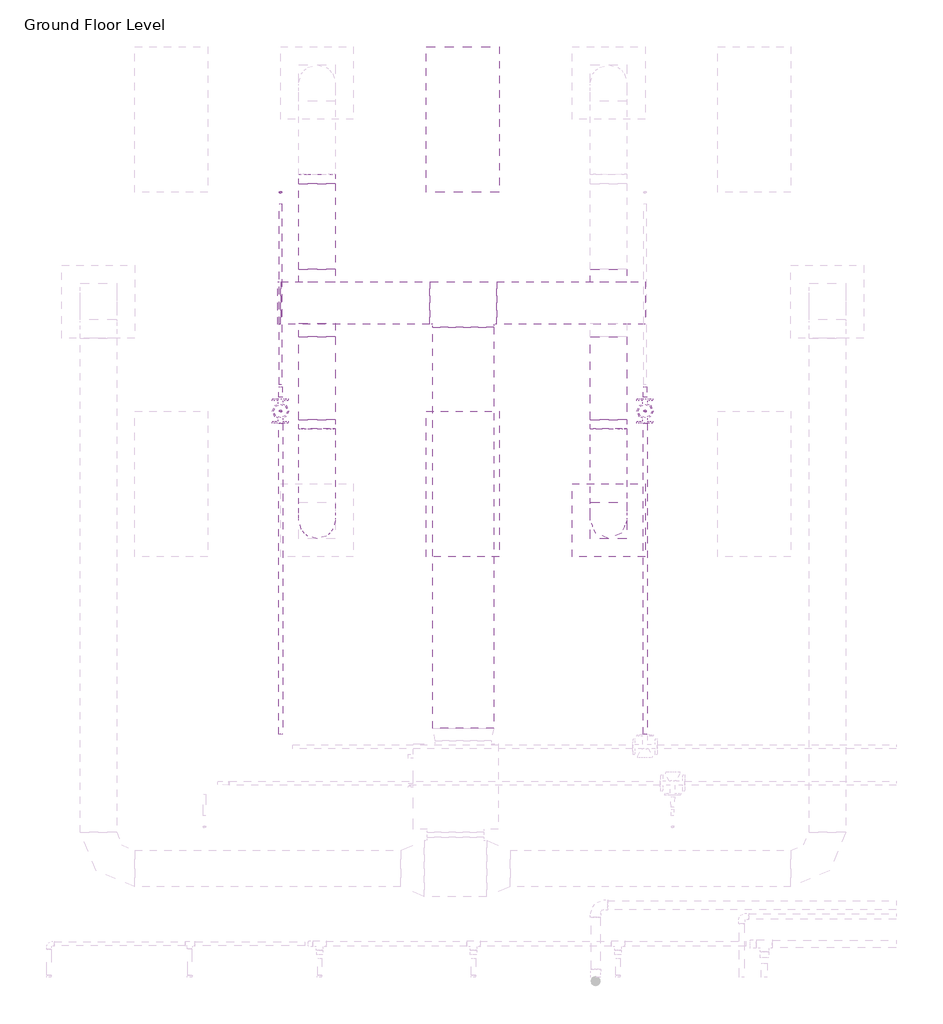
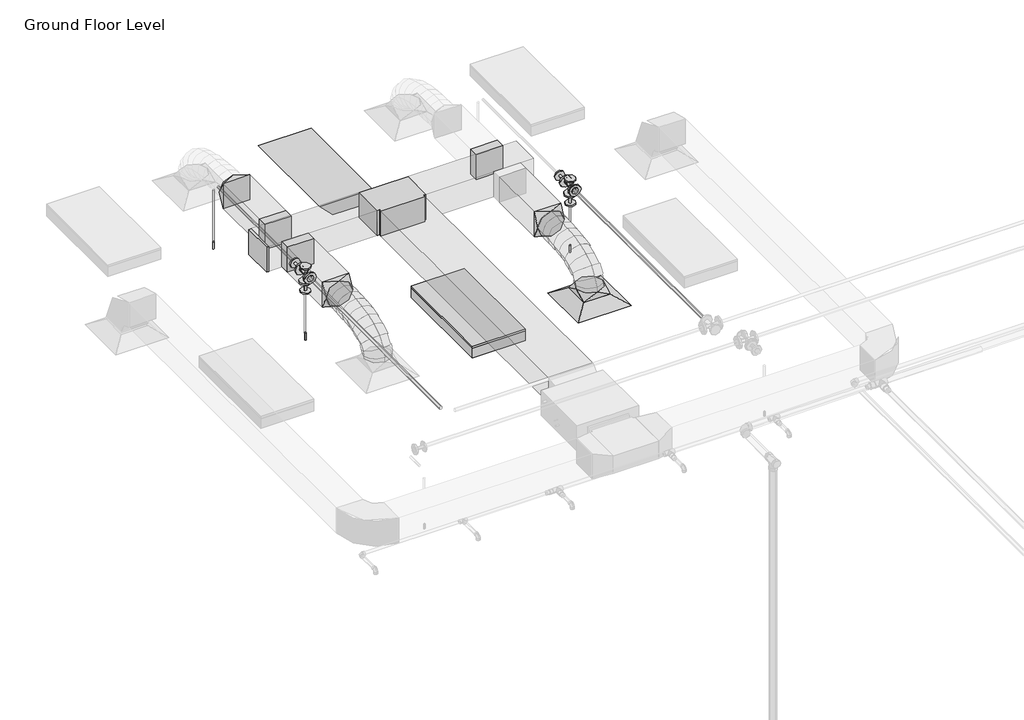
# One storey, part 52 of 66: 9 duct fittings, 8 duct segments, 6 pipe fittings, 6 pipe segments, 3 fire suppression terminals, 2 light fixtures, 1 air terminal.
"""IFC4 building model written with IfcOpenShell, lengths in millimetres."""

from ifc_helpers import new_model, si_unit, point, frame, frame_2d, origin, place, context, project, spatial, polyline, circle_curve, ellipse_curve, trimmed, segment, composite_curve, outline, extrude, transform, mapped, element, save
from ifc_brep_helpers import plane_surface, cylinder_surface, advanced_brep
from components import m_return_diffuser_600_x_600_face_300_x_300_connection_ff221211, m_rectangular_endcap_standard_eed78c44, m_rectangular_takeoff_standard_cb0ccb98, m_rectangular_takeoff_standard_2be5eba1, m_rectangular_tee_standard_9fc1ddf1, m_rectangular_to_round_transition_angle_45_degree_641efff0, m_sprinkler_dry_pendent_hosted_15_mm_dry_pendent_9bda8e11, m_emergency_recessed_lighting_fixture_600x1200_277_5b10b25d, m_troffer_light_parabolic_rectangular1_0600x1200mm_4_lamp_86473d4a, m_reducer_flanged_cs_class_150_standard_d42b2106, m_tee_round_base_flanged_cs_class_150_standard_7e5987a1

model = new_model("IFC4")

# Units and contexts
model_context = context("Model", 3, world=origin())
ifc_project = project(units=[si_unit("LENGTHUNIT", "METRE", prefix="MILLI")], contexts=[model_context])

# Site, building, storey
site = spatial("IfcSite", under=ifc_project)
building = spatial("IfcBuilding", under=site)
storey = spatial("IfcBuildingStorey", under=building, Name="Ground Floor Level", Elevation=900.0)

# Air terminal
placement = place(None, origin())
m_return_diffuser_600_x_600_face_300_x_300_connection_shape = m_return_diffuser_600_x_600_face_300_x_300_connection_ff221211(model_context)
element("IfcAirTerminal", 1, ObjectType="M_Supply Diffuser : 600 x 600 Face 300 x 300 Connection", at=placement, inside=storey, context=model_context, shape_type="MappedRepresentation", body=[
    mapped(m_return_diffuser_600_x_600_face_300_x_300_connection_shape, transform((-16737.2327605, 16935.2153534, 3650.0), x_axis=(1.0, 0.0, 0.0), y_axis=(0.0, 1.0, 0.0), z_axis=(0.0, 0.0, 1.0))),
])

# Duct fittings
m_rectangular_endcap_standard_shape = m_rectangular_endcap_standard_eed78c44(model_context)
element("IfcDuctFitting", 2, ObjectType="M_Rectangular Endcap : Standard", at=placement, inside=storey, context=model_context, shape_type="MappedRepresentation", body=[
    mapped(m_rectangular_endcap_standard_shape, transform((-19437.2326293, 18724.6783949, 4099.9991374), x_axis=(-0.9999999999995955, 0.0, -8.994654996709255e-07), y_axis=(0.0, -1.0000000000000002, 0.0), z_axis=(-8.994654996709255e-07, 0.0, 0.9999999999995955))),
])
m_rectangular_takeoff_standard_shape = m_rectangular_takeoff_standard_cb0ccb98(model_context)
element("IfcDuctFitting", 3, ObjectType="M_Rectangular Takeoff : Standard", at=placement, inside=storey, context=model_context, shape_type="MappedRepresentation", body=[
    mapped(m_rectangular_takeoff_standard_shape, transform((-16737.2327605, 18899.6783949, 4099.9993619), x_axis=(0.0, 1.0, 0.0), y_axis=(1.0, 0.0, 0.0), z_axis=(0.0, 0.0, -1.0))),
])
element("IfcDuctFitting", 4, ObjectType="M_Rectangular Takeoff : Standard", at=placement, inside=storey, context=model_context, shape_type="MappedRepresentation", body=[
    mapped(m_rectangular_takeoff_standard_shape, transform((-19137.2327605, 18549.6783949, 4099.9994072), x_axis=(0.0, -1.0, 0.0), y_axis=(-1.0, 0.0, 0.0), z_axis=(0.0, 0.0, -1.0))),
])
m_rectangular_takeoff_standard_2_shape = m_rectangular_takeoff_standard_2be5eba1(model_context)
element("IfcDuctFitting", 5, ObjectType="M_Rectangular Takeoff : Standard", at=placement, inside=storey, context=model_context, shape_type="MappedRepresentation", body=[
    mapped(m_rectangular_takeoff_standard_2_shape, transform((-19137.2327605, 18899.6783949, 4099.9994072), x_axis=(0.0, 1.0, 0.0), y_axis=(1.0, 0.0, 0.0), z_axis=(0.0, 0.0, -1.0))),
])
m_rectangular_tee_standard_shape = m_rectangular_tee_standard_9fc1ddf1(model_context)
element("IfcDuctFitting", 6, ObjectType="M_Rectangular Tee : Standard", at=placement, inside=storey, context=model_context, shape_type="MappedRepresentation", body=[
    mapped(m_rectangular_tee_standard_shape, transform((-17933.7327605, 18724.6783949, 4100.0001212), x_axis=(0.999999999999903, 0.0, -4.406637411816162e-07), y_axis=(-1.704451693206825e-12, 0.9999999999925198, -3.867919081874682e-06), z_axis=(4.406637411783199e-07, 3.867919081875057e-06, 0.9999999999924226))),
])
m_rectangular_to_round_transition_angle_45_degree_shape = m_rectangular_to_round_transition_angle_45_degree_641efff0(model_context)
element("IfcDuctFitting", 7, ObjectType="M_Rectangular to Round Transition - Angle : 45 Degree", at=placement, inside=storey, context=model_context, shape_type="MappedRepresentation", body=[
    mapped(m_rectangular_to_round_transition_angle_45_degree_shape, transform((-19137.2327605, 19707.8788293, 4099.9994072), x_axis=(0.0, 1.0, 0.0), y_axis=(-1.0, 0.0, 0.0), z_axis=(0.0, 0.0, 1.0))),
])
element("IfcDuctFitting", 8, ObjectType="M_Rectangular to Round Transition - Angle : 45 Degree", at=placement, inside=storey, context=model_context, shape_type="MappedRepresentation", body=[
    mapped(m_rectangular_to_round_transition_angle_45_degree_shape, transform((-16737.2327605, 16935.2153534, 3751.6), x_axis=(0.0, 0.0, 1.0), y_axis=(-1.0, 0.0, 0.0), z_axis=(0.0, -1.0, 0.0))),
])
element("IfcDuctFitting", 9, ObjectType="M_Rectangular to Round Transition - Angle : 45 Degree", at=placement, inside=storey, context=model_context, shape_type="MappedRepresentation", body=[
    mapped(m_rectangular_to_round_transition_angle_45_degree_shape, transform((-16737.2327605, 17762.5519228, 4099.9993619), x_axis=(0.0, -1.0, 0.0), y_axis=(1.0, 0.0, 0.0), z_axis=(0.0, 0.0, 1.0))),
])
element("IfcDuctFitting", 10, ObjectType="M_Rectangular to Round Transition - Angle : 45 Degree", at=placement, inside=storey, context=model_context, shape_type="MappedRepresentation", body=[
    mapped(m_rectangular_to_round_transition_angle_45_degree_shape, transform((-19137.2327605, 17762.5518775, 4099.9994072), x_axis=(0.0, -1.0, 0.0), y_axis=(1.0, 0.0, 0.0), z_axis=(0.0, 0.0, 1.0))),
])

# Duct segments
element("IfcDuctSegment", 11, ObjectType="Flex - Round", at=placement, inside=storey, context=model_context, shape_type="AdvancedBrep", body=[
    advanced_brep(
    [(-16587.2327605, 16935.2153534, 3826.6), (-16737.2327605, 16785.2153534, 3826.6), (-16887.2327605, 16935.2153534, 3826.6), (-16737.2327605, 17085.2153534, 3826.6), (-16587.2327605, 16935.2153534, 3857.9377382), (-16737.2327605, 16785.2153534, 3883.5809933), (-16887.2327605, 16935.2153534, 3857.9377382), (-16737.2327605, 17085.2153534, 3832.2944832), (-16587.2327605, 16952.2313036, 3906.2505845), (-16737.2327605, 16818.4933649, 3978.0661927), (-16887.2327605, 16952.2313036, 3906.2505845), (-16737.2327605, 17085.9692424, 3834.4349763), (-16587.2327605, 16999.4152322, 3968.7112839), (-16737.2327605, 16895.2094421, 4079.6206836), (-16887.2327605, 16999.4152322, 3968.7112839), (-16737.2327605, 17103.6210222, 3857.8018842), (-16587.2327605, 17070.9712556, 4016.069955), (-16737.2327605, 17002.0373721, 4150.3237294), (-16887.2327605, 17070.9712556, 4016.069955), (-16737.2327605, 17139.9051391, 3881.8161806), (-16587.2327605, 17161.1034906, 4050.4144545), (-16737.2327605, 17117.5429156, 4194.3366186), (-16887.2327605, 17161.1034906, 4050.4144545), (-16737.2327605, 17204.6640657, 3906.4922903), (-16587.2327605, 17264.0160539, 4073.832639), (-16737.2327605, 17237.4553083, 4221.6231855), (-16887.2327605, 17264.0160539, 4073.832639), (-16737.2327605, 17290.5767996, 3926.0420925), (-16587.2327605, 17373.9130621, 4088.4123653), (-16737.2327605, 17358.7623148, 4237.7166441), (-16887.2327605, 17373.9130621, 4088.4123653), (-16737.2327605, 17389.0638095, 3939.1080865), (-16587.2327605, 17484.9986319, 4096.2414901), (-16737.2327605, 17477.4934243, 4246.0846137), (-16887.2327605, 17484.9986319, 4096.2414901), (-16737.2327605, 17492.5038395, 3946.3983665), (-16587.2327605, 17591.4768799, 4099.4078701), (-16737.2327605, 17588.7854577, 4249.3941429), (-16887.2327605, 17591.4768799, 4099.4078701), (-16737.2327605, 17594.1683021, 3949.4215972), (-16587.2327605, 17687.5519228, 4099.9993619), (-16737.2327605, 17688.4753894, 3950.0022045), (-16887.2327605, 17687.5519228, 4099.9993619), (-16737.2327605, 17686.6284562, 4249.9965192)],
    [
        (0, 1, circle_curve(frame((-16737.2327605, 16935.2153534, 3826.6), z_axis=(0.0, 0.0, -1.0), x_axis=(1.0, 0.0, 0.0)), 150.0)),
        (1, 2, circle_curve(frame((-16737.2327605, 16935.2153534, 3826.6), z_axis=(0.0, 0.0, -1.0), x_axis=(1.0, 0.0, 0.0)), 150.0)),
        (2, 3, circle_curve(frame((-16737.2327605, 16935.2153534, 3826.6), z_axis=(0.0, 0.0, -1.0), x_axis=(1.0, 0.0, 0.0)), 150.0)),
        (3, 0, circle_curve(frame((-16737.2327605, 16935.2153534, 3826.6), z_axis=(0.0, 0.0, -1.0), x_axis=(1.0, 0.0, 0.0)), 150.0)),
        (0, 4),
        (4, 5, ellipse_curve(frame((-16737.2327605, 16935.2153534, 3857.9377382), z_axis=(0.0, -0.16851035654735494, -0.9856998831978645), x_axis=(0.0, 0.9856998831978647, -0.16851035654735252)), 152.1761365, 150.0)),
        (5, 1),
        (5, 6, ellipse_curve(frame((-16737.2327605, 16935.2153534, 3857.9377382), z_axis=(0.0, -0.16851035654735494, -0.9856998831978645), x_axis=(0.0, 0.9856998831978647, -0.16851035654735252)), 152.1761365, 150.0)),
        (6, 2),
        (6, 7, ellipse_curve(frame((-16737.2327605, 16935.2153534, 3857.9377382), z_axis=(0.0, -0.16851035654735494, -0.9856998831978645), x_axis=(0.0, 0.9856998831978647, -0.16851035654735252)), 152.1761365, 150.0)),
        (7, 3),
        (7, 4, ellipse_curve(frame((-16737.2327605, 16935.2153534, 3857.9377382), z_axis=(0.0, -0.16851035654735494, -0.9856998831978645), x_axis=(0.0, 0.9856998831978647, -0.16851035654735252)), 152.1761365, 150.0)),
        (4, 8),
        (8, 9, ellipse_curve(frame((-16737.2327605, 16952.2313036, 3906.2505845), z_axis=(0.0, -0.47309279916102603, -0.8810126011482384), x_axis=(0.0, 0.8810126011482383, -0.4730927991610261)), 151.8002564, 150.0)),
        (9, 5),
        (9, 10, ellipse_curve(frame((-16737.2327605, 16952.2313036, 3906.2505845), z_axis=(0.0, -0.47309279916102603, -0.8810126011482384), x_axis=(0.0, 0.8810126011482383, -0.4730927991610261)), 151.8002564, 150.0)),
        (10, 6),
        (10, 11, ellipse_curve(frame((-16737.2327605, 16952.2313036, 3906.2505845), z_axis=(0.0, -0.47309279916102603, -0.8810126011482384), x_axis=(0.0, 0.8810126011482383, -0.4730927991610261)), 151.8002564, 150.0)),
        (11, 7),
        (11, 8, ellipse_curve(frame((-16737.2327605, 16952.2313036, 3906.2505845), z_axis=(0.0, -0.47309279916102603, -0.8810126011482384), x_axis=(0.0, 0.8810126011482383, -0.4730927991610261)), 151.8002564, 150.0)),
        (8, 12),
        (12, 13, ellipse_curve(frame((-16737.2327605, 16999.4152322, 3968.7112839), z_axis=(0.0, -0.7287884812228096, -0.6847388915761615), x_axis=(0.0, 0.6847388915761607, -0.7287884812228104)), 152.1832501, 150.0)),
        (13, 9),
        (13, 14, ellipse_curve(frame((-16737.2327605, 16999.4152322, 3968.7112839), z_axis=(0.0, -0.7287884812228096, -0.6847388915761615), x_axis=(0.0, 0.6847388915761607, -0.7287884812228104)), 152.1832501, 150.0)),
        (14, 10),
        (14, 15, ellipse_curve(frame((-16737.2327605, 16999.4152322, 3968.7112839), z_axis=(0.0, -0.7287884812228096, -0.6847388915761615), x_axis=(0.0, 0.6847388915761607, -0.7287884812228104)), 152.1832501, 150.0)),
        (15, 11),
        (15, 12, ellipse_curve(frame((-16737.2327605, 16999.4152322, 3968.7112839), z_axis=(0.0, -0.7287884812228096, -0.6847388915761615), x_axis=(0.0, 0.6847388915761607, -0.7287884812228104)), 152.1832501, 150.0)),
        (12, 16),
        (16, 17, ellipse_curve(frame((-16737.2327605, 17070.9712556, 4016.069955), z_axis=(0.0, -0.8895865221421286, -0.4567667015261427), x_axis=(0.0, 0.45676670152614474, -0.8895865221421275)), 150.9170508, 150.0)),
        (17, 13),
        (17, 18, ellipse_curve(frame((-16737.2327605, 17070.9712556, 4016.069955), z_axis=(0.0, -0.8895865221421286, -0.4567667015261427), x_axis=(0.0, 0.45676670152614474, -0.8895865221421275)), 150.9170508, 150.0)),
        (18, 14),
        (18, 19, ellipse_curve(frame((-16737.2327605, 17070.9712556, 4016.069955), z_axis=(0.0, -0.8895865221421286, -0.4567667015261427), x_axis=(0.0, 0.45676670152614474, -0.8895865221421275)), 150.9170508, 150.0)),
        (19, 15),
        (19, 16, ellipse_curve(frame((-16737.2327605, 17070.9712556, 4016.069955), z_axis=(0.0, -0.8895865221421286, -0.4567667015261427), x_axis=(0.0, 0.45676670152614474, -0.8895865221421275)), 150.9170508, 150.0)),
        (16, 20),
        (20, 21, ellipse_curve(frame((-16737.2327605, 17161.1034906, 4050.4144545), z_axis=(0.0, -0.9571207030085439, -0.289689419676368), x_axis=(0.0, 0.28968941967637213, -0.9571207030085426)), 150.3699206, 150.0)),
        (21, 17),
        (21, 22, ellipse_curve(frame((-16737.2327605, 17161.1034906, 4050.4144545), z_axis=(0.0, -0.9571207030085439, -0.289689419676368), x_axis=(0.0, 0.28968941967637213, -0.9571207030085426)), 150.3699206, 150.0)),
        (22, 18),
        (22, 23, ellipse_curve(frame((-16737.2327605, 17161.1034906, 4050.4144545), z_axis=(0.0, -0.9571207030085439, -0.289689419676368), x_axis=(0.0, 0.28968941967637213, -0.9571207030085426)), 150.3699206, 150.0)),
        (23, 19),
        (23, 20, ellipse_curve(frame((-16737.2327605, 17161.1034906, 4050.4144545), z_axis=(0.0, -0.9571207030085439, -0.289689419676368), x_axis=(0.0, 0.28968941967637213, -0.9571207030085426)), 150.3699206, 150.0)),
        (20, 24),
        (24, 25, ellipse_curve(frame((-16737.2327605, 17264.0160539, 4073.832639), z_axis=(0.0, -0.9842315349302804, -0.17688495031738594), x_axis=(0.0, 0.17688495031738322, -0.9842315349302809)), 150.1583126, 150.0)),
        (25, 21),
        (25, 26, ellipse_curve(frame((-16737.2327605, 17264.0160539, 4073.832639), z_axis=(0.0, -0.9842315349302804, -0.17688495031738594), x_axis=(0.0, 0.17688495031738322, -0.9842315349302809)), 150.1583126, 150.0)),
        (26, 22),
        (26, 27, ellipse_curve(frame((-16737.2327605, 17264.0160539, 4073.832639), z_axis=(0.0, -0.9842315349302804, -0.17688495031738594), x_axis=(0.0, 0.17688495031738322, -0.9842315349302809)), 150.1583126, 150.0)),
        (27, 23),
        (27, 24, ellipse_curve(frame((-16737.2327605, 17264.0160539, 4073.832639), z_axis=(0.0, -0.9842315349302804, -0.17688495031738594), x_axis=(0.0, 0.17688495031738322, -0.9842315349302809)), 150.1583126, 150.0)),
        (24, 28),
        (28, 29, ellipse_curve(frame((-16737.2327605, 17373.9130621, 4088.4123653), z_axis=(0.0, -0.9948907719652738, -0.10095717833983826), x_axis=(0.0, 0.10095717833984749, -0.9948907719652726)), 150.0710259, 150.0)),
        (29, 25),
        (29, 30, ellipse_curve(frame((-16737.2327605, 17373.9130621, 4088.4123653), z_axis=(0.0, -0.9948907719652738, -0.10095717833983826), x_axis=(0.0, 0.10095717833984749, -0.9948907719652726)), 150.0710259, 150.0)),
        (30, 26),
        (30, 31, ellipse_curve(frame((-16737.2327605, 17373.9130621, 4088.4123653), z_axis=(0.0, -0.9948907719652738, -0.10095717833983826), x_axis=(0.0, 0.10095717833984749, -0.9948907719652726)), 150.0710259, 150.0)),
        (31, 27),
        (31, 28, ellipse_curve(frame((-16737.2327605, 17373.9130621, 4088.4123653), z_axis=(0.0, -0.9948907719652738, -0.10095717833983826), x_axis=(0.0, 0.10095717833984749, -0.9948907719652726)), 150.0710259, 150.0)),
        (28, 32),
        (32, 33, ellipse_curve(frame((-16737.2327605, 17484.9986319, 4096.2414901), z_axis=(0.0, -0.9987479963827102, -0.05002439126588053), x_axis=(0.0, 0.050024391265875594, -0.9987479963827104)), 150.0309629, 150.0)),
        (33, 29),
        (33, 34, ellipse_curve(frame((-16737.2327605, 17484.9986319, 4096.2414901), z_axis=(0.0, -0.9987479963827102, -0.05002439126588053), x_axis=(0.0, 0.050024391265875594, -0.9987479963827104)), 150.0309629, 150.0)),
        (34, 30),
        (34, 35, ellipse_curve(frame((-16737.2327605, 17484.9986319, 4096.2414901), z_axis=(0.0, -0.9987479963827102, -0.05002439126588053), x_axis=(0.0, 0.050024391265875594, -0.9987479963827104)), 150.0309629, 150.0)),
        (35, 31),
        (35, 32, ellipse_curve(frame((-16737.2327605, 17484.9986319, 4096.2414901), z_axis=(0.0, -0.9987479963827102, -0.05002439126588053), x_axis=(0.0, 0.050024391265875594, -0.9987479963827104)), 150.0309629, 150.0)),
        (32, 36),
        (36, 37, ellipse_curve(frame((-16737.2327605, 17591.4768799, 4099.4078701), z_axis=(0.0, -0.9998390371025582, -0.01794156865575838), x_axis=(0.0, 0.017941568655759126, -0.9998390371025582)), 150.0104189, 150.0)),
        (37, 33),
        (37, 38, ellipse_curve(frame((-16737.2327605, 17591.4768799, 4099.4078701), z_axis=(0.0, -0.9998390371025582, -0.01794156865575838), x_axis=(0.0, 0.017941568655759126, -0.9998390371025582)), 150.0104189, 150.0)),
        (38, 34),
        (38, 39, ellipse_curve(frame((-16737.2327605, 17591.4768799, 4099.4078701), z_axis=(0.0, -0.9998390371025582, -0.01794156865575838), x_axis=(0.0, 0.017941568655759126, -0.9998390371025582)), 150.0104189, 150.0)),
        (39, 35),
        (39, 36, ellipse_curve(frame((-16737.2327605, 17591.4768799, 4099.4078701), z_axis=(0.0, -0.9998390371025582, -0.01794156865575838), x_axis=(0.0, 0.017941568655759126, -0.9998390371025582)), 150.0104189, 150.0)),
        (40, 41, circle_curve(frame((-16737.2327605, 17687.5519228, 4099.9993619), z_axis=(0.0, 0.9999810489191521, 0.006156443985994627), x_axis=(1.0, 0.0, 0.0)), 150.0)),
        (41, 42, circle_curve(frame((-16737.2327605, 17687.5519228, 4099.9993619), z_axis=(0.0, 0.9999810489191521, 0.006156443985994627), x_axis=(1.0, 0.0, 0.0)), 150.0)),
        (42, 43, circle_curve(frame((-16737.2327605, 17687.5519228, 4099.9993619), z_axis=(0.0, 0.9999810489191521, 0.006156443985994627), x_axis=(1.0, 0.0, 0.0)), 150.0)),
        (43, 40, circle_curve(frame((-16737.2327605, 17687.5519228, 4099.9993619), z_axis=(0.0, 0.9999810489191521, 0.006156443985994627), x_axis=(1.0, 0.0, 0.0)), 150.0)),
        (36, 40),
        (43, 37),
        (42, 38),
        (41, 39),
    ],
    [
        plane_surface(frame((-16737.2327605, 16785.2153534, 3826.6), z_axis=(0.0, 0.0, -1.0), x_axis=(1.0, 0.0, 0.0))),
        cylinder_surface(frame((-16737.2327605, 16935.2153534, 3826.6), z_axis=(0.0, 0.0, -1.0), x_axis=(1.0, 0.0, 0.0)), 150.0),
        cylinder_surface(frame((-16737.2327605, 16935.2153534, 3857.9377382), z_axis=(0.0, -0.3322012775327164, -0.9432085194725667), x_axis=(1.0, 0.0, 0.0)), 150.0),
        cylinder_surface(frame((-16737.2327605, 16952.2313036, 3906.2505845), z_axis=(0.0, -0.6027631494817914, -0.7979201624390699), x_axis=(1.0, 0.0, 0.0)), 150.0),
        cylinder_surface(frame((-16737.2327605, 16999.4152322, 3968.7112839), z_axis=(0.0, -0.8339031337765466, -0.5519108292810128), x_axis=(1.0, 0.0, 0.0)), 150.0),
        cylinder_surface(frame((-16737.2327605, 17070.9712556, 4016.069955), z_axis=(0.0, -0.9344587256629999, -0.35607146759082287), x_axis=(1.0, 0.0, 0.0)), 150.0),
        cylinder_surface(frame((-16737.2327605, 17161.1034906, 4050.4144545), z_axis=(0.0, -0.9750735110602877, -0.2218820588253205), x_axis=(1.0, 0.0, 0.0)), 150.0),
        cylinder_surface(frame((-16737.2327605, 17264.0160539, 4073.832639), z_axis=(0.0, -0.9913141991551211, -0.1315148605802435), x_axis=(1.0, 0.0, 0.0)), 150.0),
        cylinder_surface(frame((-16737.2327605, 17373.9130621, 4088.4123653), z_axis=(0.0, -0.9975256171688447, -0.07030393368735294), x_axis=(1.0, 0.0, 0.0)), 150.0),
        cylinder_surface(frame((-16737.2327605, 17484.9986319, 4096.2414901), z_axis=(0.0, -0.999558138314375, -0.029724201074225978), x_axis=(1.0, 0.0, 0.0)), 150.0),
        plane_surface(frame((-16737.2327605, 17686.6284562, 4249.9965192), z_axis=(0.0, 0.999981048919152, 0.0061564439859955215), x_axis=(1.0, 0.0, 0.0))),
        cylinder_surface(frame((-16737.2327605, 17591.4768799, 4099.4078701), z_axis=(0.0, -0.9999810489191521, -0.006156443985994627), x_axis=(1.0, 0.0, 0.0)), 150.0),
    ],
    [
        (0, [[1, 2, 3, 4]]),
        (1, [[-1, 5, 6, 7]]),
        (1, [[-2, -7, 8, 9]]),
        (1, [[-3, -9, 10, 11]]),
        (1, [[-4, -11, 12, -5]]),
        (2, [[-6, 13, 14, 15]]),
        (2, [[-8, -15, 16, 17]]),
        (2, [[-10, -17, 18, 19]]),
        (2, [[-12, -19, 20, -13]]),
        (3, [[-14, 21, 22, 23]]),
        (3, [[-16, -23, 24, 25]]),
        (3, [[-18, -25, 26, 27]]),
        (3, [[-20, -27, 28, -21]]),
        (4, [[-22, 29, 30, 31]]),
        (4, [[-24, -31, 32, 33]]),
        (4, [[-26, -33, 34, 35]]),
        (4, [[-28, -35, 36, -29]]),
        (5, [[-30, 37, 38, 39]]),
        (5, [[-32, -39, 40, 41]]),
        (5, [[-34, -41, 42, 43]]),
        (5, [[-36, -43, 44, -37]]),
        (6, [[-38, 45, 46, 47]]),
        (6, [[-40, -47, 48, 49]]),
        (6, [[-42, -49, 50, 51]]),
        (6, [[-44, -51, 52, -45]]),
        (7, [[-46, 53, 54, 55]]),
        (7, [[-48, -55, 56, 57]]),
        (7, [[-50, -57, 58, 59]]),
        (7, [[-52, -59, 60, -53]]),
        (8, [[-54, 61, 62, 63]]),
        (8, [[-56, -63, 64, 65]]),
        (8, [[-58, -65, 66, 67]]),
        (8, [[-60, -67, 68, -61]]),
        (9, [[-62, 69, 70, 71]]),
        (9, [[-64, -71, 72, 73]]),
        (9, [[-66, -73, 74, 75]]),
        (9, [[-68, -75, 76, -69]]),
        (10, [[77, 78, 79, 80]]),
        (11, [[-70, 81, -80, 82]]),
        (11, [[-72, -82, -79, 83]]),
        (11, [[-74, -83, -78, 84]]),
        (11, [[-76, -84, -77, -81]]),
    ],
),
])
element("IfcDuctSegment", 12, ObjectType="Flex - Round", at=placement, inside=storey, context=model_context, shape_type="AdvancedBrep", body=[
    advanced_brep(
    [(-18987.2327605, 16935.2153534, 3826.6), (-19137.2327605, 16785.2153534, 3826.6), (-19287.2327605, 16935.2153534, 3826.6), (-19137.2327605, 17085.2153534, 3826.6), (-18987.2327605, 16935.2153534, 3857.9377363), (-19137.2327605, 16785.2153534, 3883.580989), (-19287.2327605, 16935.2153534, 3857.9377363), (-19137.2327605, 17085.2153534, 3832.2944836), (-18987.2327605, 16952.2313024, 3906.2505836), (-19137.2327605, 16818.4933608, 3978.0661859), (-19287.2327605, 16952.2313024, 3906.2505836), (-19137.2327605, 17085.969244, 3834.4349814), (-18987.2327605, 16999.4152275, 3968.711286), (-19137.2327605, 16895.2094297, 4079.6206779), (-19287.2327605, 16999.4152275, 3968.711286), (-19137.2327605, 17103.6210253, 3857.8018941), (-18987.2327605, 17070.9712459, 4016.0699627), (-19137.2327605, 17002.0373501, 4150.3237308), (-19287.2327605, 17070.9712459, 4016.0699627), (-19137.2327605, 17139.9051416, 3881.8161947), (-18987.2327605, 17161.1034747, 4050.4144697), (-19137.2327605, 17117.5428863, 4194.3366298), (-19287.2327605, 17161.1034747, 4050.4144697), (-19137.2327605, 17204.6640631, 3906.4923095), (-18987.2327605, 17264.0160312, 4073.8326625), (-19137.2327605, 17237.4552729, 4221.6232067), (-19287.2327605, 17264.0160312, 4073.8326625), (-19137.2327605, 17290.5767896, 3926.0421182), (-18987.2327605, 17373.9130326, 4088.4123969), (-19137.2327605, 17358.7622742, 4237.7166746), (-19287.2327605, 17373.9130326, 4088.4123969), (-19137.2327605, 17389.0637909, 3939.1081192), (-18987.2327605, 17484.9985959, 4096.2415287), (-19137.2327605, 17477.4933798, 4246.0846519), (-19287.2327605, 17484.9985959, 4096.2415287), (-19137.2327605, 17492.5038121, 3946.3984054), (-18987.2327605, 17591.4768385, 4099.4079135), (-19137.2327605, 17588.7854112, 4249.3941863), (-19287.2327605, 17591.4768385, 4099.4079135), (-19137.2327605, 17594.1682658, 3949.4216408), (-18987.2327605, 17687.5518775, 4099.9994072), (-19137.2327605, 17688.475347, 3950.0022499), (-19287.2327605, 17687.5518775, 4099.9994072), (-19137.2327605, 17686.6284079, 4249.9965645)],
    [
        (0, 1, circle_curve(frame((-19137.2327605, 16935.2153534, 3826.6), z_axis=(0.0, 0.0, -1.0), x_axis=(1.0, 0.0, 0.0)), 150.0)),
        (1, 2, circle_curve(frame((-19137.2327605, 16935.2153534, 3826.6), z_axis=(0.0, 0.0, -1.0), x_axis=(1.0, 0.0, 0.0)), 150.0)),
        (2, 3, circle_curve(frame((-19137.2327605, 16935.2153534, 3826.6), z_axis=(0.0, 0.0, -1.0), x_axis=(1.0, 0.0, 0.0)), 150.0)),
        (3, 0, circle_curve(frame((-19137.2327605, 16935.2153534, 3826.6), z_axis=(0.0, 0.0, -1.0), x_axis=(1.0, 0.0, 0.0)), 150.0)),
        (0, 4),
        (4, 5, ellipse_curve(frame((-19137.2327605, 16935.2153534, 3857.9377363), z_axis=(0.0, -0.1685103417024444, -0.9856998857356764), x_axis=(0.0, 0.9856998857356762, -0.1685103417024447)), 152.1761361, 150.0)),
        (5, 1),
        (5, 6, ellipse_curve(frame((-19137.2327605, 16935.2153534, 3857.9377363), z_axis=(0.0, -0.1685103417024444, -0.9856998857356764), x_axis=(0.0, 0.9856998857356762, -0.1685103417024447)), 152.1761361, 150.0)),
        (6, 2),
        (6, 7, ellipse_curve(frame((-19137.2327605, 16935.2153534, 3857.9377363), z_axis=(0.0, -0.1685103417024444, -0.9856998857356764), x_axis=(0.0, 0.9856998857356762, -0.1685103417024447)), 152.1761361, 150.0)),
        (7, 3),
        (7, 4, ellipse_curve(frame((-19137.2327605, 16935.2153534, 3857.9377363), z_axis=(0.0, -0.1685103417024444, -0.9856998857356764), x_axis=(0.0, 0.9856998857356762, -0.1685103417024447)), 152.1761361, 150.0)),
        (4, 8),
        (8, 9, ellipse_curve(frame((-19137.2327605, 16952.2313024, 3906.2505836), z_axis=(0.0, -0.4730927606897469, -0.8810126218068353), x_axis=(0.0, 0.881012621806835, -0.4730927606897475)), 151.8002561, 150.0)),
        (9, 5),
        (9, 10, ellipse_curve(frame((-19137.2327605, 16952.2313024, 3906.2505836), z_axis=(0.0, -0.4730927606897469, -0.8810126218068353), x_axis=(0.0, 0.881012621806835, -0.4730927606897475)), 151.8002561, 150.0)),
        (10, 6),
        (10, 11, ellipse_curve(frame((-19137.2327605, 16952.2313024, 3906.2505836), z_axis=(0.0, -0.4730927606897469, -0.8810126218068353), x_axis=(0.0, 0.881012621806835, -0.4730927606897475)), 151.8002561, 150.0)),
        (11, 7),
        (11, 8, ellipse_curve(frame((-19137.2327605, 16952.2313024, 3906.2505836), z_axis=(0.0, -0.4730927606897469, -0.8810126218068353), x_axis=(0.0, 0.881012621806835, -0.4730927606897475)), 151.8002561, 150.0)),
        (8, 12),
        (12, 13, ellipse_curve(frame((-19137.2327605, 16999.4152275, 3968.711286), z_axis=(0.0, -0.7287884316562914, -0.6847389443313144), x_axis=(0.0, 0.6847389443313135, -0.7287884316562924)), 152.1832498, 150.0)),
        (13, 9),
        (13, 14, ellipse_curve(frame((-19137.2327605, 16999.4152275, 3968.711286), z_axis=(0.0, -0.7287884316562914, -0.6847389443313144), x_axis=(0.0, 0.6847389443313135, -0.7287884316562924)), 152.1832498, 150.0)),
        (14, 10),
        (14, 15, ellipse_curve(frame((-19137.2327605, 16999.4152275, 3968.711286), z_axis=(0.0, -0.7287884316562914, -0.6847389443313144), x_axis=(0.0, 0.6847389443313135, -0.7287884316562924)), 152.1832498, 150.0)),
        (15, 11),
        (15, 12, ellipse_curve(frame((-19137.2327605, 16999.4152275, 3968.711286), z_axis=(0.0, -0.7287884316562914, -0.6847389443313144), x_axis=(0.0, 0.6847389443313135, -0.7287884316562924)), 152.1832498, 150.0)),
        (12, 16),
        (16, 17, ellipse_curve(frame((-19137.2327605, 17070.9712459, 4016.0699627), z_axis=(0.0, -0.8895864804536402, -0.45676678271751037), x_axis=(0.0, 0.45676678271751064, -0.88958648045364)), 150.9170508, 150.0)),
        (17, 13),
        (17, 18, ellipse_curve(frame((-19137.2327605, 17070.9712459, 4016.0699627), z_axis=(0.0, -0.8895864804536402, -0.45676678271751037), x_axis=(0.0, 0.45676678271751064, -0.88958648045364)), 150.9170508, 150.0)),
        (18, 14),
        (18, 19, ellipse_curve(frame((-19137.2327605, 17070.9712459, 4016.0699627), z_axis=(0.0, -0.8895864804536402, -0.45676678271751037), x_axis=(0.0, 0.45676678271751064, -0.88958648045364)), 150.9170508, 150.0)),
        (19, 15),
        (19, 16, ellipse_curve(frame((-19137.2327605, 17070.9712459, 4016.0699627), z_axis=(0.0, -0.8895864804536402, -0.45676678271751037), x_axis=(0.0, 0.45676678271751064, -0.88958648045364)), 150.9170508, 150.0)),
        (16, 20),
        (20, 21, ellipse_curve(frame((-19137.2327605, 17161.1034747, 4050.4144697), z_axis=(0.0, -0.9571206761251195, -0.2896895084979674), x_axis=(0.0, 0.28968950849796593, -0.9571206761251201)), 150.3699207, 150.0)),
        (21, 17),
        (21, 22, ellipse_curve(frame((-19137.2327605, 17161.1034747, 4050.4144697), z_axis=(0.0, -0.9571206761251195, -0.2896895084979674), x_axis=(0.0, 0.28968950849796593, -0.9571206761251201)), 150.3699207, 150.0)),
        (22, 18),
        (22, 23, ellipse_curve(frame((-19137.2327605, 17161.1034747, 4050.4144697), z_axis=(0.0, -0.9571206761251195, -0.2896895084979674), x_axis=(0.0, 0.28968950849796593, -0.9571206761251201)), 150.3699207, 150.0)),
        (23, 19),
        (23, 20, ellipse_curve(frame((-19137.2327605, 17161.1034747, 4050.4144697), z_axis=(0.0, -0.9571206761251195, -0.2896895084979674), x_axis=(0.0, 0.28968950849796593, -0.9571206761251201)), 150.3699207, 150.0)),
        (20, 24),
        (24, 25, ellipse_curve(frame((-19137.2327605, 17264.0160312, 4073.8326625), z_axis=(0.0, -0.984231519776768, -0.17688503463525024), x_axis=(0.0, 0.17688503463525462, -0.984231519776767)), 150.1583126, 150.0)),
        (25, 21),
        (25, 26, ellipse_curve(frame((-19137.2327605, 17264.0160312, 4073.8326625), z_axis=(0.0, -0.984231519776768, -0.17688503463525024), x_axis=(0.0, 0.17688503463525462, -0.984231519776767)), 150.1583126, 150.0)),
        (26, 22),
        (26, 27, ellipse_curve(frame((-19137.2327605, 17264.0160312, 4073.8326625), z_axis=(0.0, -0.984231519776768, -0.17688503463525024), x_axis=(0.0, 0.17688503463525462, -0.984231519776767)), 150.1583126, 150.0)),
        (27, 23),
        (27, 24, ellipse_curve(frame((-19137.2327605, 17264.0160312, 4073.8326625), z_axis=(0.0, -0.984231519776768, -0.17688503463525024), x_axis=(0.0, 0.17688503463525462, -0.984231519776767)), 150.1583126, 150.0)),
        (24, 28),
        (28, 29, ellipse_curve(frame((-19137.2327605, 17373.9130326, 4088.4123969), z_axis=(0.0, -0.9948907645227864, -0.1009572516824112), x_axis=(0.0, 0.10095725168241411, -0.9948907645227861)), 150.0710259, 150.0)),
        (29, 25),
        (29, 30, ellipse_curve(frame((-19137.2327605, 17373.9130326, 4088.4123969), z_axis=(0.0, -0.9948907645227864, -0.1009572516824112), x_axis=(0.0, 0.10095725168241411, -0.9948907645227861)), 150.0710259, 150.0)),
        (30, 26),
        (30, 31, ellipse_curve(frame((-19137.2327605, 17373.9130326, 4088.4123969), z_axis=(0.0, -0.9948907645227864, -0.1009572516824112), x_axis=(0.0, 0.10095725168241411, -0.9948907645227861)), 150.0710259, 150.0)),
        (31, 27),
        (31, 28, ellipse_curve(frame((-19137.2327605, 17373.9130326, 4088.4123969), z_axis=(0.0, -0.9948907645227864, -0.1009572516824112), x_axis=(0.0, 0.10095725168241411, -0.9948907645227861)), 150.0710259, 150.0)),
        (28, 32),
        (32, 33, ellipse_curve(frame((-19137.2327605, 17484.9985959, 4096.2415287), z_axis=(0.0, -0.9987479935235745, -0.05002444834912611), x_axis=(0.0, 0.050024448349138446, -0.9987479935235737)), 150.030963, 150.0)),
        (33, 29),
        (33, 34, ellipse_curve(frame((-19137.2327605, 17484.9985959, 4096.2415287), z_axis=(0.0, -0.9987479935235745, -0.05002444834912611), x_axis=(0.0, 0.050024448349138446, -0.9987479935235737)), 150.030963, 150.0)),
        (34, 30),
        (34, 35, ellipse_curve(frame((-19137.2327605, 17484.9985959, 4096.2415287), z_axis=(0.0, -0.9987479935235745, -0.05002444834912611), x_axis=(0.0, 0.050024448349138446, -0.9987479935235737)), 150.030963, 150.0)),
        (35, 31),
        (35, 32, ellipse_curve(frame((-19137.2327605, 17484.9985959, 4096.2415287), z_axis=(0.0, -0.9987479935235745, -0.05002444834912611), x_axis=(0.0, 0.050024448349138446, -0.9987479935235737)), 150.030963, 150.0)),
        (32, 36),
        (36, 37, ellipse_curve(frame((-19137.2327605, 17591.4768385, 4099.4079135), z_axis=(0.0, -0.9998390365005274, -0.017941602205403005), x_axis=(0.0, 0.017941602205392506, -0.9998390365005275)), 150.0104189, 150.0)),
        (37, 33),
        (37, 38, ellipse_curve(frame((-19137.2327605, 17591.4768385, 4099.4079135), z_axis=(0.0, -0.9998390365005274, -0.017941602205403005), x_axis=(0.0, 0.017941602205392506, -0.9998390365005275)), 150.0104189, 150.0)),
        (38, 34),
        (38, 39, ellipse_curve(frame((-19137.2327605, 17591.4768385, 4099.4079135), z_axis=(0.0, -0.9998390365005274, -0.017941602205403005), x_axis=(0.0, 0.017941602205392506, -0.9998390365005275)), 150.0104189, 150.0)),
        (39, 35),
        (39, 36, ellipse_curve(frame((-19137.2327605, 17591.4768385, 4099.4079135), z_axis=(0.0, -0.9998390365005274, -0.017941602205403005), x_axis=(0.0, 0.017941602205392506, -0.9998390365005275)), 150.0104189, 150.0)),
        (40, 41, circle_curve(frame((-19137.2327605, 17687.5518775, 4099.9994072), z_axis=(0.0, 0.9999810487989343, 0.006156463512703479), x_axis=(1.0, 0.0, 0.0)), 150.0)),
        (41, 42, circle_curve(frame((-19137.2327605, 17687.5518775, 4099.9994072), z_axis=(0.0, 0.9999810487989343, 0.006156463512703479), x_axis=(1.0, 0.0, 0.0)), 150.0)),
        (42, 43, circle_curve(frame((-19137.2327605, 17687.5518775, 4099.9994072), z_axis=(0.0, 0.9999810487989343, 0.006156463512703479), x_axis=(1.0, 0.0, 0.0)), 150.0)),
        (43, 40, circle_curve(frame((-19137.2327605, 17687.5518775, 4099.9994072), z_axis=(0.0, 0.9999810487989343, 0.006156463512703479), x_axis=(1.0, 0.0, 0.0)), 150.0)),
        (36, 40),
        (43, 37),
        (42, 38),
        (41, 39),
    ],
    [
        plane_surface(frame((-19137.2327605, 16785.2153534, 3826.6), z_axis=(0.0, 0.0, -1.0), x_axis=(1.0, 0.0, 0.0))),
        cylinder_surface(frame((-19137.2327605, 16935.2153534, 3826.6), z_axis=(0.0, 0.0, -1.0), x_axis=(1.0, 0.0, 0.0)), 150.0),
        cylinder_surface(frame((-19137.2327605, 16935.2153534, 3857.9377363), z_axis=(0.0, -0.33220124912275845, -0.9432085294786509), x_axis=(1.0, 0.0, 0.0)), 150.0),
        cylinder_surface(frame((-19137.2327605, 16952.2313024, 3906.2505836), z_axis=(0.0, -0.6027631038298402, -0.7979201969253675), x_axis=(1.0, 0.0, 0.0)), 150.0),
        cylinder_surface(frame((-19137.2327605, 16999.4152275, 3968.711286), z_axis=(0.0, -0.833903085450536, -0.5519109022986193), x_axis=(1.0, 0.0, 0.0)), 150.0),
        cylinder_surface(frame((-19137.2327605, 17070.9712459, 4016.0699627), z_axis=(0.0, -0.9344586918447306, -0.3560715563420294), x_axis=(1.0, 0.0, 0.0)), 150.0),
        cylinder_surface(frame((-19137.2327605, 17161.1034747, 4050.4144697), z_axis=(0.0, -0.9750734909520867, -0.22188214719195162), x_axis=(1.0, 0.0, 0.0)), 150.0),
        cylinder_surface(frame((-19137.2327605, 17264.0160312, 4073.8326625), z_axis=(0.0, -0.9913141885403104, -0.13151494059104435), x_axis=(1.0, 0.0, 0.0)), 150.0),
        cylinder_surface(frame((-19137.2327605, 17373.9130326, 4088.4123969), z_axis=(0.0, -0.9975256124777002, -0.07030400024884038), x_axis=(1.0, 0.0, 0.0)), 150.0),
        cylinder_surface(frame((-19137.2327605, 17484.9985959, 4096.2415287), z_axis=(0.0, -0.9995581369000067, -0.029724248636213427), x_axis=(1.0, 0.0, 0.0)), 150.0),
        plane_surface(frame((-19137.2327605, 17686.6284079, 4249.9965645), z_axis=(0.0, 0.9999810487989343, 0.006156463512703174), x_axis=(1.0, 0.0, 0.0))),
        cylinder_surface(frame((-19137.2327605, 17591.4768385, 4099.4079135), z_axis=(0.0, -0.9999810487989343, -0.006156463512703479), x_axis=(1.0, 0.0, 0.0)), 150.0),
    ],
    [
        (0, [[1, 2, 3, 4]]),
        (1, [[-1, 5, 6, 7]]),
        (1, [[-2, -7, 8, 9]]),
        (1, [[-3, -9, 10, 11]]),
        (1, [[-4, -11, 12, -5]]),
        (2, [[-6, 13, 14, 15]]),
        (2, [[-8, -15, 16, 17]]),
        (2, [[-10, -17, 18, 19]]),
        (2, [[-12, -19, 20, -13]]),
        (3, [[-14, 21, 22, 23]]),
        (3, [[-16, -23, 24, 25]]),
        (3, [[-18, -25, 26, 27]]),
        (3, [[-20, -27, 28, -21]]),
        (4, [[-22, 29, 30, 31]]),
        (4, [[-24, -31, 32, 33]]),
        (4, [[-26, -33, 34, 35]]),
        (4, [[-28, -35, 36, -29]]),
        (5, [[-30, 37, 38, 39]]),
        (5, [[-32, -39, 40, 41]]),
        (5, [[-34, -41, 42, 43]]),
        (5, [[-36, -43, 44, -37]]),
        (6, [[-38, 45, 46, 47]]),
        (6, [[-40, -47, 48, 49]]),
        (6, [[-42, -49, 50, 51]]),
        (6, [[-44, -51, 52, -45]]),
        (7, [[-46, 53, 54, 55]]),
        (7, [[-48, -55, 56, 57]]),
        (7, [[-50, -57, 58, 59]]),
        (7, [[-52, -59, 60, -53]]),
        (8, [[-54, 61, 62, 63]]),
        (8, [[-56, -63, 64, 65]]),
        (8, [[-58, -65, 66, 67]]),
        (8, [[-60, -67, 68, -61]]),
        (9, [[-62, 69, 70, 71]]),
        (9, [[-64, -71, 72, 73]]),
        (9, [[-66, -73, 74, 75]]),
        (9, [[-68, -75, 76, -69]]),
        (10, [[77, 78, 79, 80]]),
        (11, [[-70, 81, -80, 82]]),
        (11, [[-72, -82, -79, 83]]),
        (11, [[-74, -83, -78, 84]]),
        (11, [[-76, -84, -77, -81]]),
    ],
),
])
element("IfcDuctSegment", 13, ObjectType="Radius Elbows / Taps", at=placement, inside=storey, context=model_context, shape_type="SweptSolid", body=[
    extrude(outline(polyline([(-17683.7327605, 15224.0945822), (-18183.7327605, 15224.0945822), (-18183.7327605, 18524.6783949), (-17683.7327605, 18524.6783949), (-17683.7327605, 15224.0945822)])), frame((0.0, 0.0, 3950.0008948), z_axis=(0.0, 0.0, 1.0), x_axis=(1.0, 0.0, 0.0)), (0.0, 0.0, 1.0), 300.0),
])
element("IfcDuctSegment", 14, ObjectType="Radius Elbows / Taps", at=placement, inside=storey, context=model_context, shape_type="SweptSolid", body=[
    extrude(outline(polyline([(-17658.7327605, 18549.6783949), (-17658.7327605, 18899.6783949), (-16433.7326988, 18899.6783949), (-16433.7326988, 18549.6783949), (-17658.7327605, 18549.6783949)])), frame((0.0, 0.0, 3950.0), z_axis=(0.0, 0.0, 1.0), x_axis=(1.0, 0.0, 0.0)), (0.0, 0.0, 1.0), 300.0),
])
element("IfcDuctSegment", 15, ObjectType="Radius Elbows / Taps", at=placement, inside=storey, context=model_context, shape_type="SweptSolid", body=[
    extrude(outline(polyline([(-18208.7327605, 18899.6783949), (-18208.7327605, 18549.6783949), (-19437.2326293, 18549.6783949), (-19437.2326293, 18899.6783949), (-18208.7327605, 18899.6783949)])), frame((0.0, 0.0, 3950.0002424), z_axis=(0.0, 0.0, 1.0), x_axis=(1.0, 0.0, 0.0)), (0.0, 0.0, 1.0), 300.0),
])
element("IfcDuctSegment", 16, ObjectType="Radius Elbows / Taps", at=placement, inside=storey, context=model_context, shape_type="SweptSolid", body=[
    extrude(outline(polyline([(-18987.2327605, 19001.2783949), (-19287.2327605, 19001.2783949), (-19287.2327605, 19707.8788293), (-18987.2327605, 19707.8788293), (-18987.2327605, 19001.2783949)])), frame((0.0, 0.0, 3949.9994072), z_axis=(0.0, 0.0, 1.0), x_axis=(1.0, 0.0, 0.0)), (0.0, 0.0, 1.0), 300.0),
])
element("IfcDuctSegment", 17, ObjectType="Radius Elbows / Taps", at=placement, inside=storey, context=model_context, shape_type="SweptSolid", body=[
    extrude(outline(polyline([(-16887.2327605, 18448.0783949), (-16587.2327605, 18448.0783949), (-16587.2327605, 17762.5519228), (-16887.2327605, 17762.5519228), (-16887.2327605, 18448.0783949)])), frame((0.0, 0.0, 3949.9993619), z_axis=(0.0, 0.0, 1.0), x_axis=(1.0, 0.0, 0.0)), (0.0, 0.0, 1.0), 300.0),
])
element("IfcDuctSegment", 18, ObjectType="Radius Elbows / Taps", at=placement, inside=storey, context=model_context, shape_type="SweptSolid", body=[
    extrude(outline(polyline([(-19287.2327605, 18448.0783949), (-18987.2327605, 18448.0783949), (-18987.2327605, 17762.5518775), (-19287.2327605, 17762.5518775), (-19287.2327605, 18448.0783949)])), frame((0.0, 0.0, 3949.9994072), z_axis=(0.0, 0.0, 1.0), x_axis=(1.0, 0.0, 0.0)), (0.0, 0.0, 1.0), 300.0),
])

# Fire suppression terminals
m_sprinkler_dry_pendent_hosted_15_mm_dry_pendent_shape = m_sprinkler_dry_pendent_hosted_15_mm_dry_pendent_9bda8e11(model_context)
element("IfcFireSuppressionTerminal", 19, ObjectType="M_Sprinkler - Dry - Pendent - Hosted : 15 mm Dry Pendent", at=placement, inside=storey, context=model_context, shape_type="MappedRepresentation", body=[
    mapped(m_sprinkler_dry_pendent_hosted_15_mm_dry_pendent_shape, transform((-19437.2327605, 19635.2153534, 3650.0), x_axis=(1.0, 0.0, 0.0), y_axis=(0.0, -1.0, 0.0), z_axis=(0.0, 0.0, -1.0))),
])
element("IfcFireSuppressionTerminal", 20, ObjectType="M_Sprinkler - Dry - Pendent - Hosted : 15 mm Dry Pendent", at=placement, inside=storey, context=model_context, shape_type="MappedRepresentation", body=[
    mapped(m_sprinkler_dry_pendent_hosted_15_mm_dry_pendent_shape, transform((-16437.2327605, 17835.2153534, 3650.0), x_axis=(1.0, 0.0, 0.0), y_axis=(0.0, -1.0, 0.0), z_axis=(0.0, 0.0, -1.0))),
])
element("IfcFireSuppressionTerminal", 21, ObjectType="M_Sprinkler - Dry - Pendent - Hosted : 15 mm Dry Pendent", at=placement, inside=storey, context=model_context, shape_type="MappedRepresentation", body=[
    mapped(m_sprinkler_dry_pendent_hosted_15_mm_dry_pendent_shape, transform((-19437.2327605, 17835.2153534, 3650.0), x_axis=(1.0, 0.0, 0.0), y_axis=(0.0, -1.0, 0.0), z_axis=(0.0, 0.0, -1.0))),
])

# Light fixtures
m_emergency_recessed_lighting_fixture_600x1200_277_shape = m_emergency_recessed_lighting_fixture_600x1200_277_5b10b25d(model_context)
element("IfcLightFixture", 22, ObjectType="M_Emergency Recessed Lighting Fixture : 600x1200 - 277", at=placement, inside=storey, context=model_context, shape_type="MappedRepresentation", body=[
    mapped(m_emergency_recessed_lighting_fixture_600x1200_277_shape, transform((-18237.2327605, 19635.2153534, 3650.0), x_axis=(0.0, 1.0, 0.0), y_axis=(-1.0, 0.0, 0.0), z_axis=(0.0, 0.0, 1.0))),
])
m_troffer_light_parabolic_rectangular1_0600x1200mm_4_lamp_shape = m_troffer_light_parabolic_rectangular1_0600x1200mm_4_lamp_86473d4a(model_context)
element("IfcLightFixture", 23, ObjectType="M_Troffer Light - Parabolic Rectangular1 : 0600x1200mm(4 Lamp) - 277V 2", at=placement, inside=storey, context=model_context, shape_type="MappedRepresentation", body=[
    mapped(m_troffer_light_parabolic_rectangular1_0600x1200mm_4_lamp_shape, transform((-17996.6986926, 17253.918855, 3650.0), x_axis=(0.0, 1.0, 0.0), y_axis=(-1.0, 0.0, 0.0), z_axis=(0.0, 0.0, 1.0))),
])

# Pipe fittings
m_reducer_flanged_cs_class_150_standard_shape = m_reducer_flanged_cs_class_150_standard_d42b2106(model_context)
element("IfcPipeFitting", 24, ObjectType="M_Reducer - Flanged - CS - Class 150 : Standard", at=placement, inside=storey, context=model_context, shape_type="MappedRepresentation", body=[
    mapped(m_reducer_flanged_cs_class_150_standard_shape, transform((-19437.2327605, 17835.2153534, 4259.2914063), x_axis=(0.0, 0.0, -1.0), y_axis=(-1.0, 0.0, 0.0), z_axis=(0.0, 1.0, 0.0))),
])
element("IfcPipeFitting", 25, ObjectType="M_Reducer - Flanged - CS - Class 150 : Standard", at=placement, inside=storey, context=model_context, shape_type="MappedRepresentation", body=[
    mapped(m_reducer_flanged_cs_class_150_standard_shape, transform((-16437.2327605, 17835.2153534, 4259.2914063), x_axis=(0.0, 0.0, -1.0), y_axis=(-1.0, 0.0, 0.0), z_axis=(0.0, 1.0, 0.0))),
])
element("IfcPipeFitting", 26, ObjectType="M_Reducer - Flanged - CS - Class 150 : Standard", at=placement, inside=storey, context=model_context, shape_type="MappedRepresentation", body=[
    mapped(m_reducer_flanged_cs_class_150_standard_shape, transform((-16437.2327605, 17935.9239471, 4360.0), x_axis=(0.0, 1.0, 0.0), y_axis=(-1.0, 0.0, 0.0), z_axis=(0.0, 0.0, 1.0))),
])
element("IfcPipeFitting", 27, ObjectType="M_Reducer - Flanged - CS - Class 150 : Standard", at=placement, inside=storey, context=model_context, shape_type="MappedRepresentation", body=[
    mapped(m_reducer_flanged_cs_class_150_standard_shape, transform((-19437.2327605, 17935.9239471, 4360.0), x_axis=(0.0, 1.0, 0.0), y_axis=(-1.0, 0.0, 0.0), z_axis=(0.0, 0.0, 1.0))),
])
m_tee_round_base_flanged_cs_class_150_standard_shape = m_tee_round_base_flanged_cs_class_150_standard_7e5987a1(model_context)
element("IfcPipeFitting", 28, ObjectType="M_Tee Round Base - Flanged - CS - Class 150 : Standard", at=placement, inside=storey, context=model_context, shape_type="MappedRepresentation", body=[
    mapped(m_tee_round_base_flanged_cs_class_150_standard_shape, transform((-19437.2327605, 17835.2153534, 4360.0), x_axis=(0.0, 1.0, 0.0), y_axis=(0.0, 0.0, 1.0), z_axis=(1.0, 0.0, 0.0))),
])
element("IfcPipeFitting", 29, ObjectType="M_Tee Round Base - Flanged - CS - Class 150 : Standard", at=placement, inside=storey, context=model_context, shape_type="MappedRepresentation", body=[
    mapped(m_tee_round_base_flanged_cs_class_150_standard_shape, transform((-16437.2327605, 17835.2153534, 4360.0), x_axis=(0.0, 1.0, 0.0), y_axis=(0.0, 0.0, 1.0), z_axis=(1.0, 0.0, 0.0))),
])

# Pipe segments
element("IfcPipeSegment", 30, ObjectType="Steel flanged", at=placement, inside=storey, context=model_context, shape_type="SweptSolid", body=[
    extrude(outline(composite_curve([segment(trimmed(circle_curve(frame_2d((-19437.2327605, 19635.2153534)), 10.668), [point((-19447.9007605, 19635.2153534))], [point((-19437.2327605, 19645.8833534))], False, "CARTESIAN"), True, "CONTINUOUS"), segment(trimmed(circle_curve(frame_2d((-19437.2327605, 19635.2153534)), 10.668), [point((-19437.2327605, 19645.8833534))], [point((-19426.5647605, 19635.2153534))], False, "CARTESIAN"), True, "CONTINUOUS"), segment(trimmed(circle_curve(frame_2d((-19437.2327605, 19635.2153534)), 10.668), [point((-19426.5647605, 19635.2153534))], [point((-19437.2327605, 19624.5473534))], False, "CARTESIAN"), True, "CONTINUOUS"), segment(trimmed(circle_curve(frame_2d((-19437.2327605, 19635.2153534)), 10.668), [point((-19437.2327605, 19624.5473534))], [point((-19447.9007605, 19635.2153534))], False, "CARTESIAN"), True, "CONTINUOUS")], self_intersect=False)), frame((0.0, 0.0, 3650.0), z_axis=(0.0, 0.0, 1.0), x_axis=(1.0, 0.0, 0.0)), (0.0, 0.0, 1.0), 616.9914063),
])
element("IfcPipeSegment", 31, ObjectType="Steel flanged", at=placement, inside=storey, context=model_context, shape_type="SweptSolid", body=[
    extrude(outline(composite_curve([segment(trimmed(circle_curve(frame_2d((-19437.2327605, 17835.2153534)), 10.668), [point((-19447.9007605, 17835.2153534))], [point((-19437.2327605, 17845.8833534))], False, "CARTESIAN"), True, "CONTINUOUS"), segment(trimmed(circle_curve(frame_2d((-19437.2327605, 17835.2153534)), 10.668), [point((-19437.2327605, 17845.8833534))], [point((-19426.5647605, 17835.2153534))], False, "CARTESIAN"), True, "CONTINUOUS"), segment(trimmed(circle_curve(frame_2d((-19437.2327605, 17835.2153534)), 10.668), [point((-19426.5647605, 17835.2153534))], [point((-19437.2327605, 17824.5473534))], False, "CARTESIAN"), True, "CONTINUOUS"), segment(trimmed(circle_curve(frame_2d((-19437.2327605, 17835.2153534)), 10.668), [point((-19437.2327605, 17824.5473534))], [point((-19447.9007605, 17835.2153534))], False, "CARTESIAN"), True, "CONTINUOUS")], self_intersect=False)), frame((0.0, 0.0, 3650.0), z_axis=(0.0, 0.0, 1.0), x_axis=(1.0, 0.0, 0.0)), (0.0, 0.0, 1.0), 495.2914063),
])
element("IfcPipeSegment", 32, ObjectType="Steel flanged", at=placement, inside=storey, context=model_context, shape_type="SweptSolid", body=[
    extrude(outline(composite_curve([segment(trimmed(circle_curve(frame_2d((4360.0, -19437.2327605)), 16.7005), [point((4360.0, -19453.9332605))], [point((4343.2995, -19437.2327605))], False, "CARTESIAN"), True, "CONTINUOUS"), segment(trimmed(circle_curve(frame_2d((4360.0, -19437.2327605)), 16.7005), [point((4343.2995, -19437.2327605))], [point((4360.0, -19420.5322605))], False, "CARTESIAN"), True, "CONTINUOUS"), segment(trimmed(circle_curve(frame_2d((4360.0, -19437.2327605)), 16.7005), [point((4360.0, -19420.5322605))], [point((4376.7005, -19437.2327605))], False, "CARTESIAN"), True, "CONTINUOUS"), segment(trimmed(circle_curve(frame_2d((4360.0, -19437.2327605)), 16.7005), [point((4376.7005, -19437.2327605))], [point((4360.0, -19453.9332605))], False, "CARTESIAN"), True, "CONTINUOUS")], self_intersect=False)), frame((0.0, 15173.9095765, 0.0), z_axis=(0.0, 1.0, 0.0), x_axis=(0.0, 0.0, 1.0)), (0.0, 0.0, 1.0), 2560.5971831),
])
element("IfcPipeSegment", 33, ObjectType="Steel flanged", at=placement, inside=storey, context=model_context, shape_type="SweptSolid", body=[
    extrude(outline(composite_curve([segment(trimmed(circle_curve(frame_2d((4360.0, -19437.2327605)), 10.668), [point((4360.0, -19447.9007605))], [point((4349.332, -19437.2327605))], False, "CARTESIAN"), True, "CONTINUOUS"), segment(trimmed(circle_curve(frame_2d((4360.0, -19437.2327605)), 10.668), [point((4349.332, -19437.2327605))], [point((4360.0, -19426.5647605))], False, "CARTESIAN"), True, "CONTINUOUS"), segment(trimmed(circle_curve(frame_2d((4360.0, -19437.2327605)), 10.668), [point((4360.0, -19426.5647605))], [point((4370.668, -19437.2327605))], False, "CARTESIAN"), True, "CONTINUOUS"), segment(trimmed(circle_curve(frame_2d((4360.0, -19437.2327605)), 10.668), [point((4370.668, -19437.2327605))], [point((4360.0, -19447.9007605))], False, "CARTESIAN"), True, "CONTINUOUS")], self_intersect=False)), frame((0.0, 18049.9239471, 0.0), z_axis=(0.0, 1.0, 0.0), x_axis=(0.0, 0.0, 1.0)), (0.0, 0.0, 1.0), 1492.2828125),
])
element("IfcPipeSegment", 34, ObjectType="Steel flanged", at=placement, inside=storey, context=model_context, shape_type="SweptSolid", body=[
    extrude(outline(composite_curve([segment(trimmed(circle_curve(frame_2d((-16437.2327605, 17835.2153534)), 10.668), [point((-16447.9007605, 17835.2153534))], [point((-16437.2327605, 17845.8833534))], False, "CARTESIAN"), True, "CONTINUOUS"), segment(trimmed(circle_curve(frame_2d((-16437.2327605, 17835.2153534)), 10.668), [point((-16437.2327605, 17845.8833534))], [point((-16426.5647605, 17835.2153534))], False, "CARTESIAN"), True, "CONTINUOUS"), segment(trimmed(circle_curve(frame_2d((-16437.2327605, 17835.2153534)), 10.668), [point((-16426.5647605, 17835.2153534))], [point((-16437.2327605, 17824.5473534))], False, "CARTESIAN"), True, "CONTINUOUS"), segment(trimmed(circle_curve(frame_2d((-16437.2327605, 17835.2153534)), 10.668), [point((-16437.2327605, 17824.5473534))], [point((-16447.9007605, 17835.2153534))], False, "CARTESIAN"), True, "CONTINUOUS")], self_intersect=False)), frame((0.0, 0.0, 3650.0), z_axis=(0.0, 0.0, 1.0), x_axis=(1.0, 0.0, 0.0)), (0.0, 0.0, 1.0), 495.2914063),
])
element("IfcPipeSegment", 35, ObjectType="Steel flanged", at=placement, inside=storey, context=model_context, shape_type="SweptSolid", body=[
    extrude(outline(composite_curve([segment(trimmed(circle_curve(frame_2d((4360.0, -16437.2327605)), 16.7005), [point((4360.0, -16453.9332605))], [point((4343.2995, -16437.2327605))], False, "CARTESIAN"), True, "CONTINUOUS"), segment(trimmed(circle_curve(frame_2d((4360.0, -16437.2327605)), 16.7005), [point((4343.2995, -16437.2327605))], [point((4360.0, -16420.5322605))], False, "CARTESIAN"), True, "CONTINUOUS"), segment(trimmed(circle_curve(frame_2d((4360.0, -16437.2327605)), 16.7005), [point((4360.0, -16420.5322605))], [point((4376.7005, -16437.2327605))], False, "CARTESIAN"), True, "CONTINUOUS"), segment(trimmed(circle_curve(frame_2d((4360.0, -16437.2327605)), 16.7005), [point((4376.7005, -16437.2327605))], [point((4360.0, -16453.9332605))], False, "CARTESIAN"), True, "CONTINUOUS")], self_intersect=False)), frame((0.0, 15173.9095765, 0.0), z_axis=(0.0, 1.0, 0.0), x_axis=(0.0, 0.0, 1.0)), (0.0, 0.0, 1.0), 2560.5971831),
])

save(model, "model.ifc")
